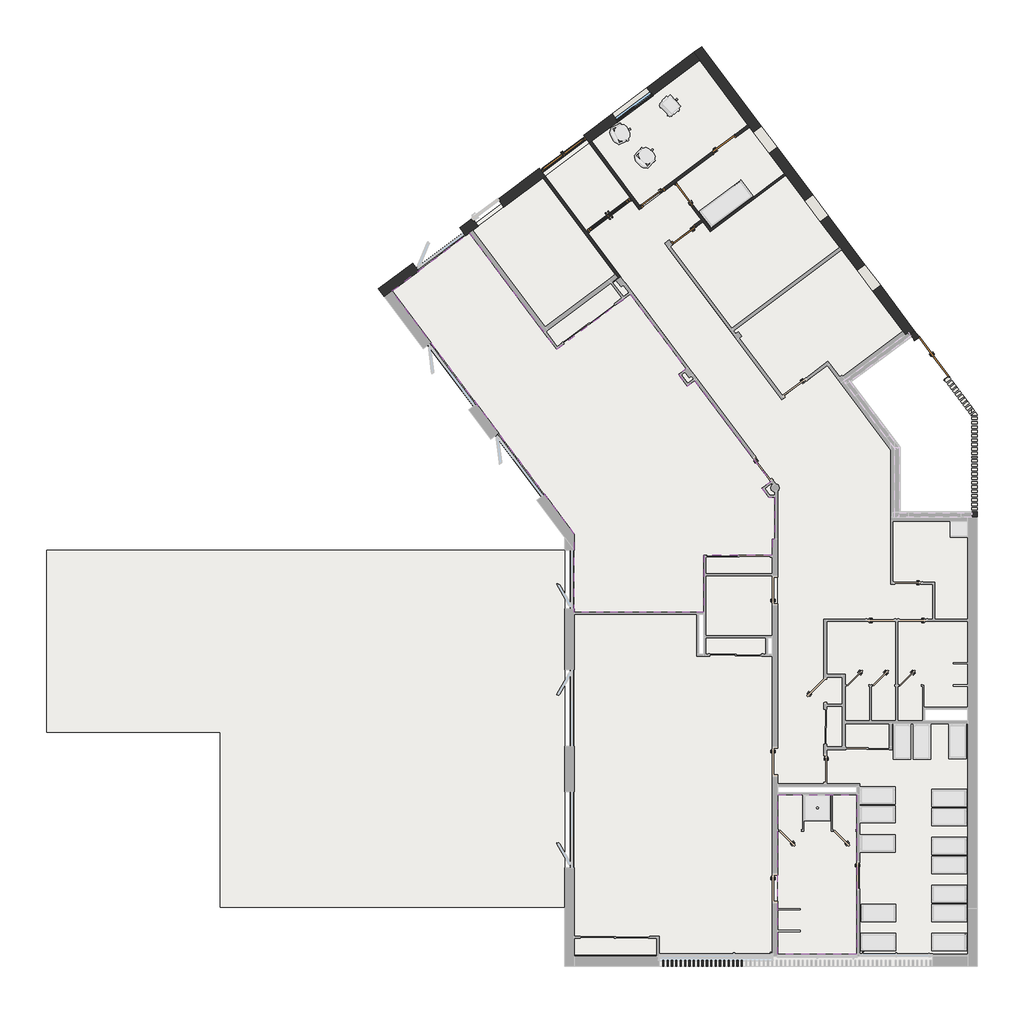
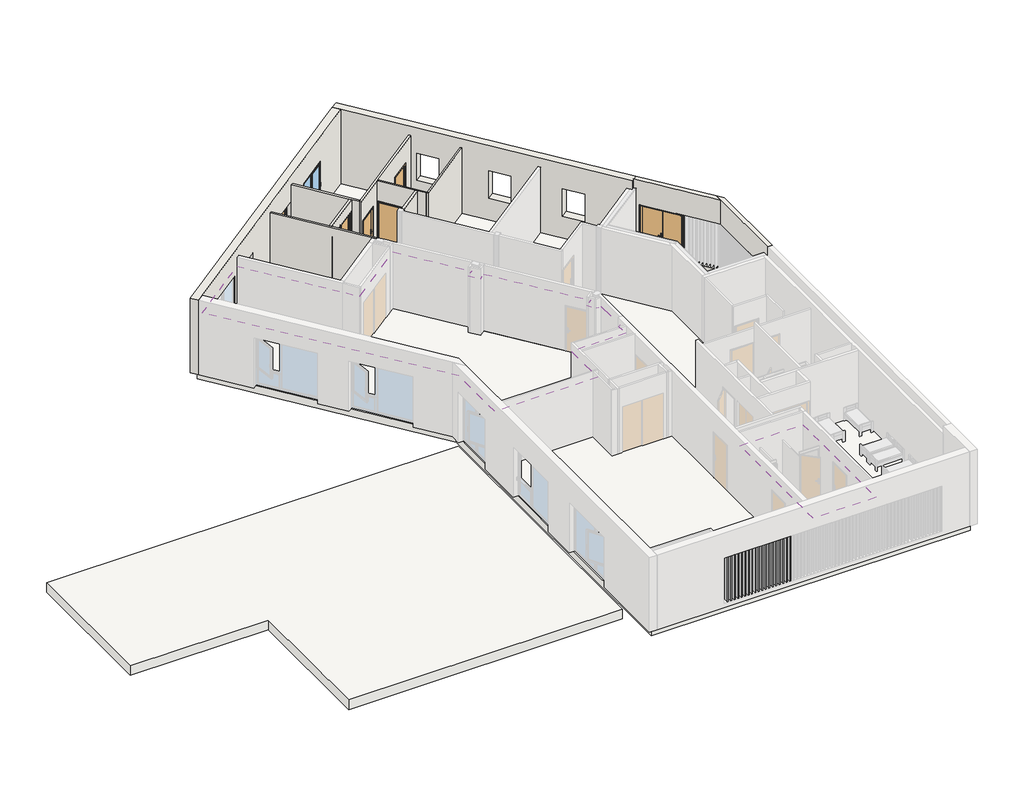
# One storey, part 3 of 4: 19 columns, 11 walls, 7 doors, 5 slabs, 2 coverings, 1 window.
"""IFC4 building model written with IfcOpenShell, lengths in millimetres."""

from ifc_helpers import new_model, si_unit, point, frame, frame_2d, origin, place, context, project, spatial, polyline, circle_curve, trimmed, segment, composite_curve, outline, extrude, faceted_brep, transform, mapped, element, save
from components import column_40mm_x_200mm_4dcdedf7, door_1_89_x_2_25_47e92b67, door_1_89_x_2_25_20da6bba, hm_double_1_70_x_2_25_cb3fb9cd, int_simple_pp_0_93m_x_2_04m_b2d4c190, int_simple_pp_0_93m_x_2_04m_4f2bf630, int_simple_pp_0_93m_x_2_04m_68d1b237, kawneer_double_door_k190_rpt_kawneer_double_door_k180_rpt_f8135a16, kawneer_double_door_k190_rpt_kawneer_double_door_k180_rpt_7c3ea43a, window_1_50_x_1_25_927f365b

model = new_model("IFC4")

# Units and contexts
model_context = context("Model", 3, world=origin())
ifc_project = project(units=[si_unit("LENGTHUNIT", "METRE", prefix="MILLI")], contexts=[model_context])

# Site, building, storey
site = spatial("IfcSite", under=ifc_project)
building = spatial("IfcBuilding", under=site)
storey = spatial("IfcBuildingStorey", under=building, Name="1 Cdl 1er 3.95", Elevation=3950.0)

# Columns
placement = place(None, origin())
column_40mm_x_200mm_shape = column_40mm_x_200mm_4dcdedf7(model_context)
element("IfcColumn", 1, ObjectType="Poteau - Lamellé-collé - Pin du sud : 40mm x 200mm", at=placement, inside=storey, context=model_context, shape_type="MappedRepresentation", body=[
    mapped(column_40mm_x_200mm_shape, transform((-8669.5111839, -16048.5662223, 0.0), x_axis=(1.0, 0.0, 0.0), y_axis=(0.0, 1.0, 0.0), z_axis=(0.0, 0.0, 1.0))),
])
element("IfcColumn", 2, ObjectType="Poteau - Lamellé-collé - Pin du sud : 40mm x 200mm", at=placement, inside=storey, context=model_context, shape_type="MappedRepresentation", body=[
    mapped(column_40mm_x_200mm_shape, transform((-8519.5111839, -16048.5662223, 0.0), x_axis=(1.0, 0.0, 0.0), y_axis=(0.0, 1.0, 0.0), z_axis=(0.0, 0.0, 1.0))),
])
element("IfcColumn", 3, ObjectType="Poteau - Lamellé-collé - Pin du sud : 40mm x 200mm", at=placement, inside=storey, context=model_context, shape_type="MappedRepresentation", body=[
    mapped(column_40mm_x_200mm_shape, transform((-8369.5111839, -16048.5662223, 0.0), x_axis=(1.0, 0.0, 0.0), y_axis=(0.0, 1.0, 0.0), z_axis=(0.0, 0.0, 1.0))),
])
element("IfcColumn", 4, ObjectType="Poteau - Lamellé-collé - Pin du sud : 40mm x 200mm", at=placement, inside=storey, context=model_context, shape_type="MappedRepresentation", body=[
    mapped(column_40mm_x_200mm_shape, transform((-8219.5111839, -16048.5662223, 0.0), x_axis=(1.0, 0.0, 0.0), y_axis=(0.0, 1.0, 0.0), z_axis=(0.0, 0.0, 1.0))),
])
element("IfcColumn", 5, ObjectType="Poteau - Lamellé-collé - Pin du sud : 40mm x 200mm", at=placement, inside=storey, context=model_context, shape_type="MappedRepresentation", body=[
    mapped(column_40mm_x_200mm_shape, transform((-8069.5111839, -16048.5662223, 0.0), x_axis=(1.0, 0.0, 0.0), y_axis=(0.0, 1.0, 0.0), z_axis=(0.0, 0.0, 1.0))),
])
element("IfcColumn", 6, ObjectType="Poteau - Lamellé-collé - Pin du sud : 40mm x 200mm", at=placement, inside=storey, context=model_context, shape_type="MappedRepresentation", body=[
    mapped(column_40mm_x_200mm_shape, transform((-7919.5111839, -16048.5662223, 0.0), x_axis=(1.0, 0.0, 0.0), y_axis=(0.0, 1.0, 0.0), z_axis=(0.0, 0.0, 1.0))),
])
element("IfcColumn", 7, ObjectType="Poteau - Lamellé-collé - Pin du sud : 40mm x 200mm", at=placement, inside=storey, context=model_context, shape_type="MappedRepresentation", body=[
    mapped(column_40mm_x_200mm_shape, transform((-7769.5111839, -16048.5662223, 0.0), x_axis=(1.0, 0.0, 0.0), y_axis=(0.0, 1.0, 0.0), z_axis=(0.0, 0.0, 1.0))),
])
element("IfcColumn", 8, ObjectType="Poteau - Lamellé-collé - Pin du sud : 40mm x 200mm", at=placement, inside=storey, context=model_context, shape_type="MappedRepresentation", body=[
    mapped(column_40mm_x_200mm_shape, transform((-7619.5111839, -16048.5662223, 0.0), x_axis=(1.0, 0.0, 0.0), y_axis=(0.0, 1.0, 0.0), z_axis=(0.0, 0.0, 1.0))),
])
element("IfcColumn", 9, ObjectType="Poteau - Lamellé-collé - Pin du sud : 40mm x 200mm", at=placement, inside=storey, context=model_context, shape_type="MappedRepresentation", body=[
    mapped(column_40mm_x_200mm_shape, transform((-7469.5111839, -16048.5662223, 0.0), x_axis=(1.0, 0.0, 0.0), y_axis=(0.0, 1.0, 0.0), z_axis=(0.0, 0.0, 1.0))),
])
element("IfcColumn", 10, ObjectType="Poteau - Lamellé-collé - Pin du sud : 40mm x 200mm", at=placement, inside=storey, context=model_context, shape_type="MappedRepresentation", body=[
    mapped(column_40mm_x_200mm_shape, transform((-7319.5111839, -16048.5662223, 0.0), x_axis=(1.0, 0.0, 0.0), y_axis=(0.0, 1.0, 0.0), z_axis=(0.0, 0.0, 1.0))),
])
element("IfcColumn", 11, ObjectType="Poteau - Lamellé-collé - Pin du sud : 40mm x 200mm", at=placement, inside=storey, context=model_context, shape_type="MappedRepresentation", body=[
    mapped(column_40mm_x_200mm_shape, transform((-7169.5111839, -16048.5662223, 0.0), x_axis=(1.0, 0.0, 0.0), y_axis=(0.0, 1.0, 0.0), z_axis=(0.0, 0.0, 1.0))),
])
element("IfcColumn", 12, ObjectType="Poteau - Lamellé-collé - Pin du sud : 40mm x 200mm", at=placement, inside=storey, context=model_context, shape_type="MappedRepresentation", body=[
    mapped(column_40mm_x_200mm_shape, transform((-7019.5111839, -16048.5662223, 0.0), x_axis=(1.0, 0.0, 0.0), y_axis=(0.0, 1.0, 0.0), z_axis=(0.0, 0.0, 1.0))),
])
element("IfcColumn", 13, ObjectType="Poteau - Lamellé-collé - Pin du sud : 40mm x 200mm", at=placement, inside=storey, context=model_context, shape_type="MappedRepresentation", body=[
    mapped(column_40mm_x_200mm_shape, transform((-6869.5111839, -16048.5662223, 0.0), x_axis=(1.0, 0.0, 0.0), y_axis=(0.0, 1.0, 0.0), z_axis=(0.0, 0.0, 1.0))),
])
element("IfcColumn", 14, ObjectType="Poteau - Lamellé-collé - Pin du sud : 40mm x 200mm", at=placement, inside=storey, context=model_context, shape_type="MappedRepresentation", body=[
    mapped(column_40mm_x_200mm_shape, transform((-6719.5111839, -16048.5662223, 0.0), x_axis=(1.0, 0.0, 0.0), y_axis=(0.0, 1.0, 0.0), z_axis=(0.0, 0.0, 1.0))),
])
element("IfcColumn", 15, ObjectType="Poteau - Lamellé-collé - Pin du sud : 40mm x 200mm", at=placement, inside=storey, context=model_context, shape_type="MappedRepresentation", body=[
    mapped(column_40mm_x_200mm_shape, transform((-6569.5111839, -16048.5662223, 0.0), x_axis=(1.0, 0.0, 0.0), y_axis=(0.0, 1.0, 0.0), z_axis=(0.0, 0.0, 1.0))),
])
element("IfcColumn", 16, ObjectType="Poteau - Lamellé-collé - Pin du sud : 40mm x 200mm", at=placement, inside=storey, context=model_context, shape_type="MappedRepresentation", body=[
    mapped(column_40mm_x_200mm_shape, transform((-6419.5111839, -16048.5662223, 0.0), x_axis=(1.0, 0.0, 0.0), y_axis=(0.0, 1.0, 0.0), z_axis=(0.0, 0.0, 1.0))),
])
element("IfcColumn", 17, ObjectType="Poteau - Lamellé-collé - Pin du sud : 40mm x 200mm", at=placement, inside=storey, context=model_context, shape_type="MappedRepresentation", body=[
    mapped(column_40mm_x_200mm_shape, transform((-6269.5111839, -16048.5662223, 0.0), x_axis=(1.0, 0.0, 0.0), y_axis=(0.0, 1.0, 0.0), z_axis=(0.0, 0.0, 1.0))),
])
element("IfcColumn", 18, ObjectType="Poteau - Lamellé-collé - Pin du sud : 40mm x 200mm", at=placement, inside=storey, context=model_context, shape_type="MappedRepresentation", body=[
    mapped(column_40mm_x_200mm_shape, transform((-6119.5111839, -16048.5662223, 0.0), x_axis=(1.0, 0.0, 0.0), y_axis=(0.0, 1.0, 0.0), z_axis=(0.0, 0.0, 1.0))),
])
element("IfcColumn", 19, ObjectType="Poteau - Lamellé-collé - Pin du sud : 40mm x 200mm", at=placement, inside=storey, context=model_context, shape_type="MappedRepresentation", body=[
    mapped(column_40mm_x_200mm_shape, transform((-5969.5111839, -16048.5662223, 0.0), x_axis=(1.0, 0.0, 0.0), y_axis=(0.0, 1.0, 0.0), z_axis=(0.0, 0.0, 1.0))),
])

# Coverings
element("IfcCovering", 20, ObjectType="A Plafond plaque de platre ba10", at=placement, inside=storey, context=model_context, shape_type="SweptSolid", body=[
    extrude(outline(polyline([(-7520.1037368, -4042.1419324), (-7520.1037368, -5475.8771251), (-4918.5161429, -5475.8771251), (-4918.5161429, -15808.5662223), (-8817.2256318, -15808.5662223), (-8817.2256318, -15114.1784251), (-11725.9579574, -15114.1784251), (-11725.9579574, -4042.1419324), (-7520.1037368, -4042.1419324)])), frame((0.0, 0.0, 6550.0), z_axis=(0.0, 0.0, 1.0), x_axis=(1.0, 0.0, 0.0)), (0.0, 0.0, 1.0), 50.0),
    extrude(outline(polyline([(-8887.2256318, -15184.1784251), (-8887.2256318, -15808.5662223), (-11725.9579574, -15808.5662223), (-11725.9579574, -15184.1784251), (-8887.2256318, -15184.1784251)])), frame((0.0, 0.0, 6550.0), z_axis=(0.0, 0.0, 1.0), x_axis=(1.0, 0.0, 0.0)), (0.0, 0.0, 1.0), 50.0),
    extrude(outline(polyline([(-789.6870946, -8692.3504346), (-789.6870946, -7802.5539694), (1796.9234173, -7802.5539694), (1796.9234173, -15738.5662223), (-1910.7246333, -15738.5662223), (-1910.7246333, -9873.5653894), (-3050.395491, -9873.5653894), (-3050.395491, -8692.3504346), (-789.6870946, -8692.3504346)])), frame((0.0, 0.0, 6550.0), z_axis=(0.0, 0.0, 1.0), x_axis=(1.0, 0.0, 0.0)), (0.0, 0.0, 1.0), 50.0),
    extrude(outline(polyline([(-889.6870946, -7802.5539694), (-889.6870946, -8592.3504346), (-2410.395491, -8592.3504346), (-2410.395491, -7802.5539694), (-889.6870946, -7802.5539694)])), frame((0.0, 0.0, 6550.0), z_axis=(0.0, 0.0, 1.0), x_axis=(1.0, 0.0, 0.0)), (0.0, 0.0, 1.0), 50.0),
    extrude(outline(polyline([(1796.9234173, -832.3564392), (1796.9234173, -4202.3504346), (669.6045371, -4202.3504346), (669.6045371, -2931.6217903), (-773.0765827, -2931.6217903), (-773.0765827, -832.3564392), (1796.9234173, -832.3564392)])), frame((0.0, 0.0, 6550.0), z_axis=(0.0, 0.0, 1.0), x_axis=(1.0, 0.0, 0.0)), (0.0, 0.0, 1.0), 50.0),
    extrude(outline(polyline([(-7422.6369813, 15016.0916067), (-5762.8326825, 12802.2532319), (-9473.9865425, 10019.8508666), (-11133.7908413, 12233.6892414), (-7422.6369813, 15016.0916067)])), frame((0.0, 0.0, 6550.0), z_axis=(0.0, 0.0, 1.0), x_axis=(1.0, 0.0, 0.0)), (0.0, 0.0, 1.0), 50.0),
    extrude(outline(polyline([(-12813.7434906, 10974.1606955), (-10321.707641, 7650.2961899), (-12729.3502563, 5845.1890022), (-15221.3861058, 9169.0535078), (-12813.7434906, 10974.1606955)])), frame((0.0, 0.0, 6550.0), z_axis=(0.0, 0.0, 1.0), x_axis=(1.0, 0.0, 0.0)), (0.0, 0.0, 1.0), 50.0),
    extrude(outline(polyline([(-15341.401053, 9079.0734408), (-12340.6031861, 5076.6247921), (-9810.7670851, 6971.4082202), (-7889.7880194, 4406.5967924), (-8146.0386127, 4213.4981199), (-7842.6457564, 3810.882201), (-7587.1163222, 4003.437441), (-4979.9956499, 525.5468426), (-5276.0258591, 303.634607), (-5042.4507212, -7.9538764), (-4838.5161429, -7.9538764), (-4838.5161429, -1453.5126421), (-4918.5161429, -1453.5126421), (-4918.5161429, -2005.7588726), (-7272.3814374, -2005.7588726), (-7272.3814374, -3972.1419324), (-11725.9579574, -3972.1419324), (-11725.9579574, -1284.5416702), (-18000.9939952, 7085.068888), (-15341.401053, 9079.0734408)])), frame((0.0, 0.0, 6550.0), z_axis=(0.0, 0.0, 1.0), x_axis=(1.0, 0.0, 0.0)), (0.0, 0.0, 1.0), 50.0),
    extrude(outline(polyline([(-10471.7770744, 7328.2851037), (-10104.4947464, 6838.4058373), (-12327.9253121, 5171.4098845), (-12702.5742703, 5677.7794627), (-10471.7770744, 7328.2851037)])), frame((0.0, 0.0, 6550.0), z_axis=(0.0, 0.0, 1.0), x_axis=(1.0, 0.0, 0.0)), (0.0, 0.0, 1.0), 50.0),
    extrude(outline(composite_curve([segment(polyline([(-9725.5000811, 10202.4856792), (-9494.009796, 9879.8541905), (-8293.7740876, 10779.7195154), (-7363.7529942, 9539.2621992), (-8403.9670732, 8759.3715713), (-8463.9534543, 8839.3810957), (-8623.9733367, 8719.4076102), (-4594.0267683, 3344.2901614), (-3026.8392389, 4519.2741295), (-843.0710496, 1601.759072), (-843.0710496, -3001.6217903), (599.6045371, -3001.6217903), (599.6045371, -4202.3504346), (-3150.395491, -4202.3504346), (-3150.395491, -9873.5653894), (-4738.5161429, -9873.5653894), (-4738.5161429, 198.0461236)]), True, "CONTINUOUS"), segment(trimmed(circle_curve(frame_2d((-4828.223969, 318.661194)), 150.3179606), [point((-4738.5161429, 198.0461236))], [point((-4811.9498515, 468.0956022))], True, "CARTESIAN"), True, "CONTINUOUS"), segment(polyline([(-4811.9498515, 468.0956022), (-11252.1016678, 9057.9296994), (-9725.5000811, 10202.4856792)]), True, "CONTINUOUS")], self_intersect=False)), frame((0.0, 0.0, 6550.0), z_axis=(0.0, 0.0, 1.0), x_axis=(1.0, 0.0, 0.0)), (0.0, 0.0, 1.0), 50.0),
    extrude(outline(polyline([(-6174.8673042, 5619.5062599), (-6250.8893229, 5720.9039515), (-2539.7382159, 8503.3065302), (-431.701009, 5691.6174249), (-2493.7628222, 4145.6061618), (-2527.1921031, 4190.1939634), (-2607.2015101, 4130.2076211), (-3004.5875304, 4661.1147838), (-4575.0216031, 3485.6404833), (-6054.8937714, 5459.4863145), (-5974.8838302, 5519.4730573), (-6094.8573394, 5679.4929712), (-6174.8673042, 5619.5062599)])), frame((0.0, 0.0, 6550.0), z_axis=(0.0, 0.0, 1.0), x_axis=(1.0, 0.0, 0.0)), (0.0, 0.0, 1.0), 50.0),
    extrude(outline(polyline([(-2599.7249272, 8583.316495), (-6310.878266, 5800.9145205), (-8424.221722, 8619.6810734), (-7303.9969615, 9459.5596373), (-7052.052642, 9123.5178842), (-4461.1245255, 11066.0416359), (-2599.7249272, 8583.316495)])), frame((0.0, 0.0, 6550.0), z_axis=(0.0, 0.0, 1.0), x_axis=(1.0, 0.0, 0.0)), (0.0, 0.0, 1.0), 50.0),
    extrude(outline(polyline([(-5702.8459712, 12722.2432671), (-4503.1152235, 11122.0486113), (-7038.0363645, 9221.5155575), (-8237.7671122, 10821.7102133), (-5702.8459712, 12722.2432671)])), frame((0.0, 0.0, 6550.0), z_axis=(0.0, 0.0, 1.0), x_axis=(1.0, 0.0, 0.0)), (0.0, 0.0, 1.0), 50.0),
    extrude(outline(polyline([(-4918.5161429, -2075.7588726), (-4918.5161429, -2638.5655769), (-7202.3814374, -2638.5655769), (-7202.3814374, -2075.7588726), (-4918.5161429, -2075.7588726)])), frame((0.0, 0.0, 6550.0), z_axis=(0.0, 0.0, 1.0), x_axis=(1.0, 0.0, 0.0)), (0.0, 0.0, 1.0), 50.0),
    extrude(outline(polyline([(-5152.772014, -4846.0460811), (-5152.772014, -5405.8771251), (-7202.3814374, -5405.8771251), (-7202.3814374, -4846.0460811), (-5152.772014, -4846.0460811)])), frame((0.0, 0.0, 6550.0), z_axis=(0.0, 0.0, 1.0), x_axis=(1.0, 0.0, 0.0)), (0.0, 0.0, 1.0), 50.0),
])
element("IfcCovering", 21, ObjectType="A Plafond plaque de platre ba10", at=placement, inside=storey, context=model_context, shape_type="SweptSolid", body=[
    extrude(outline(polyline([(1796.9234173, -4272.3504346), (1796.9234173, -7234.3232508), (252.548896, -7234.3232508), (252.548896, -7702.5539694), (-600.3954629, -7702.5539694), (-600.3954629, -4272.3504346), (1796.9234173, -4272.3504346)])), frame((0.0, 0.0, 6350.0), z_axis=(0.0, 0.0, 1.0), x_axis=(1.0, 0.0, 0.0)), (0.0, 0.0, 1.0), 50.0),
    extrude(outline(polyline([(-3050.395491, -4272.3504346), (-670.3954629, -4272.3504346), (-670.3954629, -7702.5539694), (-2410.395491, -7702.5539694), (-2410.395491, -6104.411813), (-3050.395491, -6104.411813), (-3050.395491, -4272.3504346)])), frame((0.0, 0.0, 6350.0), z_axis=(0.0, 0.0, 1.0), x_axis=(1.0, 0.0, 0.0)), (0.0, 0.0, 1.0), 50.0),
    extrude(outline(polyline([(-4918.5161429, -2708.5655769), (-4918.5161429, -4776.0460811), (-7202.3814374, -4776.0460811), (-7202.3814374, -2708.5655769), (-4918.5161429, -2708.5655769)])), frame((0.0, 0.0, 6350.0), z_axis=(0.0, 0.0, 1.0), x_axis=(1.0, 0.0, 0.0)), (0.0, 0.0, 1.0), 50.0),
    extrude(outline(polyline([(-2010.7246333, -10246.4366169), (-2010.7246333, -15738.5662223), (-4738.5161429, -15738.5662223), (-4738.5161429, -10246.4366169), (-2010.7246333, -10246.4366169)])), frame((0.0, 0.0, 6350.0), z_axis=(0.0, 0.0, 1.0), x_axis=(1.0, 0.0, 0.0)), (0.0, 0.0, 1.0), 50.0),
])

# Doors
door_1_89_x_2_25_shape = door_1_89_x_2_25_47e92b67(model_context)
door_1_89_x_2_25_2_shape = door_1_89_x_2_25_20da6bba(model_context)
element("IfcDoor", 22, ObjectType="doorsgealans9000double-vent-door : 1.89 x 2.25", at=placement, inside=storey, context=model_context, shape_type="MappedRepresentation", body=[
    mapped(door_1_89_x_2_25_shape, transform((-12076.5042577, 11739.3723438, 3950.0), x_axis=(-0.8000996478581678, -0.5998671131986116, 0.0), y_axis=(0.5998671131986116, -0.8000996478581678, 0.0), z_axis=(0.0, 0.0, 1.0))),
    mapped(door_1_89_x_2_25_2_shape, transform((-12076.5042577, 11739.3723438, 3950.0), x_axis=(-0.8000996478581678, -0.5998671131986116, 0.0), y_axis=(0.5998671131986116, -0.8000996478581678, 0.0), z_axis=(0.0, 0.0, 1.0))),
])
hm_double_1_70_x_2_25_shape = hm_double_1_70_x_2_25_cb3fb9cd(model_context)
element("IfcDoor", 23, ObjectType="HM-Double : 1.70 x 2.25", at=placement, inside=storey, context=model_context, shape_type="MappedRepresentation", body=[
    mapped(hm_double_1_70_x_2_25_shape, transform((564.5300556, 4762.9382029, 3950.0), x_axis=(-0.5998671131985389, 0.8000996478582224, 0.0), y_axis=(-0.8000996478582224, -0.5998671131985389, 0.0), z_axis=(0.0, 0.0, 1.0))),
])
int_simple_pp_0_93m_x_2_04m_shape = int_simple_pp_0_93m_x_2_04m_b2d4c190(model_context)
element("IfcDoor", 24, ObjectType="Int. Simple : PP (0.93m x 2.04m)", at=placement, inside=storey, context=model_context, shape_type="MappedRepresentation", body=[
    mapped(int_simple_pp_0_93m_x_2_04m_shape, transform((-7977.8343856, 10416.6670334, 3950.0), x_axis=(-0.5998671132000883, 0.8000996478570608, 0.0), y_axis=(-0.8000996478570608, -0.5998671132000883, 0.0), z_axis=(0.0, 0.0, 1.0))),
])
int_simple_pp_0_93m_x_2_04m_2_shape = int_simple_pp_0_93m_x_2_04m_4f2bf630(model_context)
element("IfcDoor", 25, ObjectType="Int. Simple : PP (0.93m x 2.04m)", at=placement, inside=storey, context=model_context, shape_type="MappedRepresentation", body=[
    mapped(int_simple_pp_0_93m_x_2_04m_2_shape, transform((-9059.9453559, 10267.7820986, 3950.0), x_axis=(-0.8000996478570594, -0.59986711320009, 0.0), y_axis=(0.59986711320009, -0.8000996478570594, 0.0), z_axis=(0.0, 0.0, 1.0))),
])
int_simple_pp_0_93m_x_2_04m_3_shape = int_simple_pp_0_93m_x_2_04m_68d1b237(model_context)
element("IfcDoor", 26, ObjectType="Int. Simple : PP (0.93m x 2.04m)", at=placement, inside=storey, context=model_context, shape_type="MappedRepresentation", body=[
    mapped(int_simple_pp_0_93m_x_2_04m_3_shape, transform((-7995.0819835, 9003.4366627, 3950.0), x_axis=(-0.8000994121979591, -0.5998674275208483, 0.0), y_axis=(0.5998674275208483, -0.8000994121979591, 0.0), z_axis=(0.0, 0.0, 1.0))),
])
element("IfcDoor", 27, ObjectType="Int. Simple : PP (0.93m x 2.04m)", at=placement, inside=storey, context=model_context, shape_type="MappedRepresentation", body=[
    mapped(int_simple_pp_0_93m_x_2_04m_3_shape, transform((-6553.0948412, 12147.2694668, 3950.0), x_axis=(0.8000996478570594, 0.59986711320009, 0.0), y_axis=(-0.59986711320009, 0.8000996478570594, 0.0), z_axis=(0.0, 0.0, 1.0))),
])
kawneer_double_door_k190_rpt_kawneer_double_door_k180_rpt_shape = kawneer_double_door_k190_rpt_kawneer_double_door_k180_rpt_f8135a16(model_context)
kawneer_double_door_k190_rpt_kawneer_double_door_k180_rpt_2_shape = kawneer_double_door_k190_rpt_kawneer_double_door_k180_rpt_7c3ea43a(model_context)
element("IfcDoor", 28, ObjectType="Kawneer - Double Door - K190 RPT : Kawneer - Double Door - K180 RPT", at=placement, inside=storey, context=model_context, shape_type="MappedRepresentation", body=[
    mapped(kawneer_double_door_k190_rpt_kawneer_double_door_k180_rpt_shape, transform((-10522.1167554, 9667.7211715, 3950.0), x_axis=(0.8000996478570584, 0.5998671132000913, 0.0), y_axis=(-0.5998671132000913, 0.8000996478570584, 0.0), z_axis=(0.0, 0.0, 1.0))),
    mapped(kawneer_double_door_k190_rpt_kawneer_double_door_k180_rpt_2_shape, transform((-10522.1167554, 9667.7211715, 3950.0), x_axis=(0.8000996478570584, 0.5998671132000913, 0.0), y_axis=(-0.5998671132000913, 0.8000996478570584, 0.0), z_axis=(0.0, 0.0, 1.0))),
])

# Slabs
element("IfcSlab", 29, ObjectType="A Sol souple 1", at=placement, inside=storey, context=model_context, shape_type="SweptSolid", body=[
    extrude(outline(polyline([(-1910.7246333, -15808.5662223), (-1910.7246333, -9873.5653894), (-3050.395491, -9873.5653894), (-3050.395491, -8692.3504346), (-2410.395491, -8692.3504346), (-2410.395491, -7802.5539694), (1796.9234173, -7802.5539694), (1796.9234173, -15808.5662223), (-1910.7246333, -15808.5662223)])), frame((0.0, 0.0, 3930.0), z_axis=(0.0, 0.0, 1.0), x_axis=(1.0, 0.0, 0.0)), (0.0, 0.0, 1.0), 20.0),
    extrude(outline(polyline([(-11725.9579574, -1284.5416702), (-18000.9939952, 7085.068888), (-15341.401053, 9079.0734408), (-12759.3851365, 5635.193988), (-10419.6667776, 7389.3756095), (-10041.9602092, 6885.5925454), (-9772.8131684, 7087.1768901), (-7809.4096819, 4465.7221384), (-7969.1304725, 4346.095295), (-7927.1438446, 4290.0852684), (-8046.9372825, 4199.8144381), (-7829.2412217, 3909.4085925), (-7629.097483, 4059.4417416), (-5567.8076878, 1309.687779), (-5535.8019583, 1333.6801378), (-4977.9796168, 589.546927), (-5009.9853463, 565.5545682), (-4938.00827, 469.5373798), (-5178.0292047, 289.6112082), (-5007.4402745, 62.0461236), (-4738.5161429, 62.0461236), (-4738.5161429, -1453.5126421), (-4918.5161429, -1453.5126421), (-4918.5161429, -2708.5655769), (-7202.3814374, -2708.5655769), (-7202.3814374, -4042.1419324), (-7450.1037368, -4042.1419324), (-7450.1037368, -5405.8771251), (-7272.3814374, -5405.8771251), (-7272.3814374, -4776.0460811), (-5082.772014, -4776.0460811), (-5082.772014, -5405.8771251), (-4918.5161429, -5405.8771251), (-4918.5161429, -8640.5106113), (-4878.5161429, -8640.5106113), (-4878.5161429, -9570.5106113), (-4918.5161429, -9570.5106113), (-4918.5161429, -15748.5662223), (-11725.9579574, -15748.5662223), (-11725.9579574, -1284.5416702)])), frame((0.0, 0.0, 3930.0), z_axis=(0.0, 0.0, 1.0), x_axis=(1.0, 0.0, 0.0)), (0.0, 0.0, 1.0), 20.0),
    extrude(outline(polyline([(-9494.009796, 9879.8541905), (-11213.8008061, 12173.7025301), (-7422.6369812, 15016.0916067), (-431.701009, 5691.6174249), (-2653.7661932, 4025.6451539), (-3024.9324051, 4520.7047244), (-3753.9236291, 3974.1500287), (-3789.9156748, 4022.1559934), (-4510.0051454, 3482.2753082), (-4474.0130998, 3434.2693435), (-4594.0280098, 3344.2892307), (-8504.0011164, 8559.3868288), (-8309.1313594, 8705.4886982), (-8333.1260565, 8737.4926747), (-7601.0350943, 9286.3713709), (-7637.0272205, 9334.377443), (-7363.7529942, 9539.2621992), (-7714.9023233, 10007.6233552), (-7690.8993339, 10025.6193686), (-8230.7797358, 10745.7090517), (-8254.7827252, 10727.7130383), (-8293.7740876, 10779.7195154), (-8641.903671, 10518.7126661), (-8677.8956978, 10566.7186449), (-9397.9853809, 10026.8382431), (-9361.9933541, 9978.8322642), (-9494.009796, 9879.8541905)])), frame((0.0, 0.0, 3930.0), z_axis=(0.0, 0.0, 1.0), x_axis=(1.0, 0.0, 0.0)), (0.0, 0.0, 1.0), 20.0),
])
element("IfcSlab", 30, ObjectType="A Carrelage 2 30 x 60", at=placement, inside=storey, context=model_context, shape_type="SweptSolid", body=[
    extrude(outline(polyline([(-11213.8008061, 12173.7025301), (-9494.009796, 9879.8541905), (-8293.7740876, 10779.7195154), (-8254.7827252, 10727.7130383), (-8230.7797358, 10745.7090517), (-7690.8993339, 10025.6193686), (-7714.9023233, 10007.6233552), (-7363.7529942, 9539.2621992), (-7637.02714, 9334.3773356), (-7601.0351132, 9286.3713568), (-8321.1245653, 8746.4906861), (-8357.116611, 8794.4966509), (-8397.1215816, 8764.5032795), (-8457.1273927, 8844.538654), (-8623.9936703, 8719.4321445), (-4594.0280097, 3344.2892307), (-4474.0130998, 3434.2693435), (-4510.0051454, 3482.2753082), (-3789.9156748, 4022.1559934), (-3753.9236291, 3974.1500287), (-3024.9324051, 4520.7047244), (-843.0765827, 1610.5591177), (-843.0765827, -3001.6217903), (-708.0765827, -3001.6217903), (-708.0765827, -2971.6217903), (191.9234173, -2971.6217903), (191.9234173, -3001.6217903), (599.6045371, -3001.6217903), (599.6045371, -4202.3504346), (364.6045371, -4202.3504346), (364.6045371, -4232.3504346), (-535.3954629, -4232.3504346), (-535.3954629, -4202.3504346), (-735.3954629, -4202.3504346), (-735.3954629, -4232.3504346), (-1635.3954629, -4232.3504346), (-1635.3954629, -4202.3504346), (-3150.395491, -4202.3504346), (-3150.395491, -6104.411813), (-2410.395491, -6104.411813), (-2410.395491, -8692.3504346), (-3050.395491, -8692.3504346), (-3050.395491, -8893.5653894), (-3090.395491, -8893.5653894), (-3090.395491, -8908.5653894), (-3090.395491, -9808.5653894), (-3150.395491, -9808.5653894), (-3150.395491, -9873.5653894), (-4738.5161429, -9873.5653894), (-4738.5161429, -9555.5106113), (-4878.5161429, -9555.5106113), (-4878.5161429, -8655.5106113), (-4738.5161429, -8655.5106113), (-4738.5161429, 198.0461236), (-4811.9498515, 468.0956022), (-4938.9681571, 637.5376137), (-4986.9767514, 601.5490756), (-5526.8048237, 1321.6779893), (-5478.7962295, 1357.6665274), (-12733.6774189, 11034.1894725), (-11213.8008061, 12173.7025301)])), frame((0.0, 0.0, 3930.0), z_axis=(0.0, 0.0, 1.0), x_axis=(1.0, 0.0, 0.0)), (0.0, 0.0, 1.0), 20.0),
])
element("IfcSlab", 31, ObjectType="A Carrelage1 20 x 20", at=placement, inside=storey, context=model_context, shape_type="SweptSolid", body=[
    extrude(outline(polyline([(-1635.3954629, -4202.3504346), (-1635.3954629, -4232.3504346), (-735.3954629, -4232.3504346), (-735.3954629, -4202.3504346), (-535.3954629, -4202.3504346), (-535.3954629, -4232.3504346), (364.6045371, -4232.3504346), (364.6045371, -4202.3504346), (599.6045371, -4202.3504346), (599.6045371, -3001.6217903), (191.9234173, -3001.6217903), (191.9234173, -2971.6217903), (-708.0765827, -2971.6217903), (-708.0765827, -3001.6217903), (-843.0765827, -3001.6217903), (-843.0765827, -832.2304389), (1796.9234173, -832.2304389), (1796.9234173, -7304.3232508), (322.548896, -7304.3232508), (322.548896, -7702.5539694), (-2410.395491, -7702.5539694), (-2410.395491, -6104.411813), (-3150.395491, -6104.411813), (-3150.395491, -4202.3504346), (-1635.3954629, -4202.3504346)])), frame((0.0, 0.0, 3930.0), z_axis=(0.0, 0.0, 1.0), x_axis=(1.0, 0.0, 0.0)), (0.0, 0.0, 1.0), 20.0),
    extrude(outline(polyline([(-1910.7246333, -10176.4366169), (-1910.7246333, -15808.5662223), (-4738.5161429, -15808.5662223), (-4738.5161429, -10176.4366169), (-1910.7246333, -10176.4366169)])), frame((0.0, 0.0, 3930.0), z_axis=(0.0, 0.0, 1.0), x_axis=(1.0, 0.0, 0.0)), (0.0, 0.0, 1.0), 20.0),
    extrude(outline(polyline([(-12733.6774189, 11034.1894725), (-10139.2521543, 7573.7584955), (-12638.7990754, 5724.4123062), (-15221.3861058, 9169.0535078), (-12733.6774189, 11034.1894725)])), frame((0.0, 0.0, 3930.0), z_axis=(0.0, 0.0, 1.0), x_axis=(1.0, 0.0, 0.0)), (0.0, 0.0, 1.0), 20.0),
    extrude(outline(polyline([(-4918.5161429, -2708.5655769), (-4918.5161429, -4776.0460811), (-7202.3814374, -4776.0460811), (-7202.3814374, -2708.5655769), (-4918.5161429, -2708.5655769)])), frame((0.0, 0.0, 3930.0), z_axis=(0.0, 0.0, 1.0), x_axis=(1.0, 0.0, 0.0)), (0.0, 0.0, 1.0), 20.0),
])
element("IfcSlab", 32, ObjectType="A gravier 4 + étanchéité 2 + isolant 18 + dalle ba 20", at=placement, inside=storey, context=model_context, shape_type="SweptSolid", body=[
    extrude(outline(polyline([(-29887.0149756, -8098.7637486), (-29887.0149756, -1832.7637486), (-12065.9579574, -1832.7637486), (-12065.9579574, -14118.5662223), (-23908.2803137, -14118.5662223), (-23908.2803137, -8098.7637486), (-29887.0149756, -8098.7637486)])), frame((0.0, 0.0, 3330.0), z_axis=(0.0, 0.0, 1.0), x_axis=(1.0, 0.0, 0.0)), (0.0, 0.0, 1.0), 440.0),
])
element("IfcSlab", 33, ObjectType="A  chape 6 + isolant 12 + dalle ba 20", at=placement, inside=storey, context=model_context, shape_type="SweptSolid", body=[
    extrude(outline(polyline([(1936.9234173, -832.2304389), (1936.9234173, -15948.5662223), (-11865.9579574, -15948.5662223), (-11865.9579574, -1331.1954185), (-18196.9893417, 7113.1014429), (-7394.6044264, 15212.0869532), (-353.116292, 5820.1865593), (-2687.1952496, 4070.2330253), (-843.0765827, 1610.5591177), (-843.0765827, -832.2304389), (1936.9234173, -832.2304389)]), holes=[polyline([(1796.9234173, -7304.3232508), (322.548896, -7304.3232508), (322.548896, -7702.5539694), (1796.9234173, -7702.5539694), (1796.9234173, -7304.3232508)]), polyline([(-7272.3814374, -4042.1419324), (-7450.1037368, -4042.1419324), (-7450.1037368, -5405.8771251), (-7272.3814374, -5405.8771251), (-7272.3814374, -4042.1419324)]), polyline([(-4918.5161429, -4846.0460811), (-5082.772014, -4846.0460811), (-5082.772014, -5405.8771251), (-4918.5161429, -5405.8771251), (-4918.5161429, -4846.0460811)]), polyline([(-2010.7246333, -9973.5653894), (-4738.5161429, -9973.5653894), (-4738.5161429, -10176.4366169), (-2010.7246333, -10176.4366169), (-2010.7246333, -9973.5653894)])]), frame((0.0, 0.0, 3600.0), z_axis=(0.0, 0.0, 1.0), x_axis=(1.0, 0.0, 0.0)), (0.0, 0.0, 1.0), 330.0),
])

# Walls
element("IfcWall", 34, ObjectType="A Béton 20", at=placement, inside=storey, context=model_context, shape_type="Brep", body=[
    faceted_brep([(2136.9234173, -692.3564392, 3950.0), (2136.9234173, 2832.3916709, 3950.0), (2136.9234173, 2832.3916709, 4150.0), (2136.9234173, -506.2304389, 4150.0), (2136.9234173, -506.2304389, 6250.0), (2136.9234173, 2832.3916709, 6250.0), (2136.9234173, 2832.3916709, 7350.0), (2136.9234173, -762.3564392, 7350.0), (2136.9234173, -762.3564392, 6950.0), (2136.9234173, -692.3564392, 6950.0), (1936.9234173, -692.3564392, 3950.0), (1936.9234173, -692.3564392, 3990.0), (1936.9234173, -692.3564392, 6910.0), (1936.9234173, -692.3564392, 6950.0), (1936.9234173, -762.3564392, 6950.0), (1936.9234173, -762.3564392, 7350.0), (1936.9234173, 2765.7434591, 7350.0), (1936.9234173, 3099.1506348, 7350.0), (1936.9234173, 3099.1506348, 6250.0), (1936.9234173, 2765.7434591, 6250.0), (1936.9234173, -506.2304389, 6250.0), (1936.9234173, -506.2304389, 4150.0), (1936.9234173, 2765.7434591, 4150.0), (1936.9234173, 3099.1506348, 4150.0), (1936.9234173, 3099.1506348, 3950.0), (1936.9234173, 2765.7434591, 3950.0)], [[[0, 1, 2, 3, 4, 5, 6, 7, 8, 9]], [[10, 11, 12, 13, 14, 15, 16, 17, 18, 19, 20, 21, 22, 23, 24, 25]], [[2, 1, 24, 23]], [[1, 0, 10, 25, 24]], [[7, 6, 17, 16, 15]], [[3, 2, 23, 22, 21]], [[5, 4, 20, 19, 18]], [[6, 5, 18, 17]], [[8, 7, 15, 14]], [[8, 14, 13, 9]], [[4, 3, 21, 20]], [[0, 9, 13, 12, 11, 10]]]),
])
element("IfcWall", 35, ObjectType="A Béton 20", at=placement, inside=storey, context=model_context, shape_type="Brep", body=[
    faceted_brep([(1936.9234173, 3099.1506348, 4150.0), (1936.9234173, 3099.1506348, 3950.0), (1155.3268672, 4141.6400641, 3950.0), (1155.3268672, 4141.6400641, 4150.0), (1936.9234173, 2765.7434591, 3950.0), (1936.9234173, 2765.7434591, 4150.0), (995.3069377, 4021.6666414, 4150.0), (995.3069377, 4021.6666414, 3950.0)], [[[0, 1, 2, 3]], [[4, 5, 6, 7]], [[1, 0, 5, 4]], [[1, 4, 7, 2]], [[5, 0, 3, 6]], [[3, 2, 7, 6]]]),
    faceted_brep([(-30.85634, 5723.7650807, 3950.0), (-30.85634, 5723.7650807, 7350.0), (1936.9234173, 3099.1506348, 7350.0), (1936.9234173, 3099.1506348, 6250.0), (1015.5773622, 4328.0372298, 6250.0), (1015.5773622, 4328.0372298, 6201.5), (133.7531735, 5504.2097644, 6201.5), (133.7531735, 5504.2097644, 3950.0), (-190.8762696, 5603.791658, 7350.0), (-190.8762696, 5603.791658, 3950.0), (-26.2667561, 5384.2363417, 3950.0), (-26.2667561, 5384.2363417, 6201.5), (855.5574327, 4208.0638072, 6201.5), (855.5574327, 4208.0638072, 6250.0), (1936.9234173, 2765.7434591, 6250.0), (1936.9234173, 2765.7434591, 7350.0)], [[[0, 1, 2, 3, 4, 5, 6, 7]], [[8, 9, 10, 11, 12, 13, 14, 15]], [[9, 0, 7, 10]], [[1, 0, 9, 8]], [[2, 1, 8, 15]], [[4, 3, 14, 13]], [[4, 13, 12, 5]], [[3, 2, 15, 14]], [[6, 11, 10, 7]], [[11, 6, 5, 12]]]),
])
element("IfcWall", 36, ObjectType="A Béton 20 + vide 1 +  Doublage 14", at=placement, inside=storey, context=model_context, shape_type="Brep", body=[
    faceted_brep([(-30.8896037, 5723.8094476, 3950.0), (-7354.5579195, 15492.0803054, 3950.0), (-7354.5579195, 15492.0803054, 7350.0), (-30.8896037, 5723.8094476, 7350.0), (-1732.310691, 7993.1560792, 4950.0), (-1192.4302891, 7273.0663962, 4950.0), (-1192.4302891, 7273.0663962, 6200.0), (-1732.310691, 7993.1560792, 6200.0), (-3533.4044084, 10395.4455486, 4950.0), (-2993.5240065, 9675.3558655, 4950.0), (-2993.5240065, 9675.3558655, 6200.0), (-3533.4044084, 10395.4455486, 6200.0), (-5297.0137212, 12747.7385133, 6200.0), (-5297.0137212, 12747.7385133, 4950.0), (-4757.1333193, 12027.6488302, 4950.0), (-4757.1333193, 12027.6488302, 6200.0), (-7626.5917997, 15288.1254869, 3950.0), (-7422.6369812, 15016.0916067, 3950.0), (-4503.1152235, 11122.0486113, 3950.0), (-4461.1245255, 11066.0416359, 3950.0), (-431.701009, 5691.6174249, 3950.0), (-347.7196132, 5579.6034742, 3950.0), (-302.923484, 5519.8546291, 3950.0), (-302.923484, 5519.8546291, 7350.0), (-7422.6369812, 15016.0916067, 7350.0), (-7626.5917997, 15288.1254869, 7350.0), (-2004.3445712, 7789.2012607, 4950.0), (-2004.3445712, 7789.2012607, 6200.0), (-1464.4641694, 7069.1115777, 6200.0), (-1464.4641694, 7069.1115777, 4950.0), (-3805.4382887, 10191.4907301, 4950.0), (-3805.4382887, 10191.4907301, 6200.0), (-3265.5578868, 9471.401047, 6200.0), (-3265.5578868, 9471.401047, 4950.0), (-5569.0476015, 12543.7836948, 4950.0), (-5569.0476015, 12543.7836948, 6200.0), (-5029.1671996, 11823.6940117, 6200.0), (-5029.1671996, 11823.6940117, 4950.0)], [[[0, 1, 2, 3], [4, 5, 6, 7], [8, 9, 10, 11], [12, 13, 14, 15]], [[16, 17, 18, 19, 20, 21, 22, 23, 24, 25], [26, 27, 28, 29], [30, 31, 32, 33], [34, 35, 36, 37]], [[1, 0, 22, 21, 20, 19, 18, 17, 16]], [[3, 2, 25, 24, 23]], [[0, 3, 23, 22]], [[2, 1, 16, 25]], [[27, 26, 4, 7]], [[28, 27, 7, 6]], [[29, 28, 6, 5]], [[26, 29, 5, 4]], [[31, 30, 8, 11]], [[32, 31, 11, 10]], [[33, 32, 10, 9]], [[30, 33, 9, 8]], [[34, 13, 12, 35]], [[35, 12, 15, 36]], [[36, 15, 14, 37]], [[13, 34, 37, 14]]]),
])
element("IfcWall", 37, ObjectType="A Béton 20 + vide 1 +  Doublage 14", at=placement, inside=storey, context=model_context, shape_type="Brep", body=[
    faceted_brep([(-18476.982694, 7153.1479498, 7350.0), (-7626.5917997, 15288.1254869, 7350.0), (-7626.5917997, 15288.1254869, 3950.0), (-11414.3865032, 12448.2623771, 3950.0), (-11414.3865032, 12448.2623771, 6210.0), (-12942.5768306, 11302.5161909, 6210.0), (-12942.5768306, 11302.5161909, 3950.0), (-14331.5498193, 10261.1468823, 3950.0), (-14331.5498193, 10261.1468823, 6234.0), (-15264.4660087, 9561.7018284, 6234.0), (-15264.4660087, 9561.7018284, 3950.0), (-15678.0161435, 9251.6465419, 3950.0), (-15678.0161435, 9251.6465419, 6250.0), (-17294.2174322, 8039.9149732, 6250.0), (-17294.2174322, 8039.9149732, 3950.0), (-18476.982694, 7153.1479498, 3950.0), (-9234.1041494, 14082.9083678, 6200.0), (-10434.2536211, 13183.107698, 6200.0), (-10434.2536211, 13183.107698, 4950.0), (-9234.1041494, 14082.9083678, 4950.0), (-7422.6369812, 15016.0916067, 7350.0), (-18000.9939952, 7085.068888, 7350.0), (-18273.0278755, 6881.1140695, 7350.0), (-18273.0278755, 6881.1140695, 3950.0), (-18000.9939952, 7085.068888, 3950.0), (-17090.2626137, 7767.881093, 3950.0), (-17090.2626137, 7767.881093, 6250.0), (-15474.061325, 8979.6126616, 6250.0), (-15474.061325, 8979.6126616, 3950.0), (-15033.3078022, 9310.0634299, 3950.0), (-15033.3078022, 9310.0634299, 6200.0), (-14154.7983889, 9968.7175202, 6200.0), (-14154.7983889, 9968.7175202, 3950.0), (-12738.6220122, 11030.4823106, 3950.0), (-12738.6220122, 11030.4823106, 6210.0), (-11210.4316848, 12176.2284968, 6210.0), (-11210.4316848, 12176.2284968, 3950.0), (-7422.6369812, 15016.0916067, 3950.0), (-9006.1463414, 13828.8705009, 4950.0), (-10254.3017921, 12893.0778044, 4950.0), (-10254.3017921, 12893.0778044, 6230.0), (-9006.1463414, 13828.8705009, 6230.0), (-15207.478633, 9485.6923618, 3950.0), (-15180.275245, 9506.0878437, 3950.0), (-14274.5624436, 10185.1374158, 3950.0), (-14301.7658316, 10164.7419339, 3950.0), (-14274.5624436, 10185.1374158, 6234.0), (-15207.478633, 9485.6923618, 6234.0), (-15180.275245, 9506.0878437, 6200.0), (-14301.7658316, 10164.7419339, 6200.0), (-9102.1333845, 13906.8864453, 6200.0), (-10302.2828562, 13007.0857755, 6200.0), (-9078.130395, 13924.8824587, 4950.0), (-9102.1333845, 13906.8864453, 4950.0), (-10302.2828562, 13007.0857755, 4950.0), (-10326.2858457, 12989.0897621, 4950.0), (-10326.2858457, 12989.0897621, 6230.0), (-9078.130395, 13924.8824587, 6230.0)], [[[0, 1, 2, 3, 4, 5, 6, 7, 8, 9, 10, 11, 12, 13, 14, 15], [16, 17, 18, 19]], [[20, 21, 22, 23, 24, 25, 26, 27, 28, 29, 30, 31, 32, 33, 34, 35, 36, 37], [38, 39, 40, 41]], [[2, 37, 36, 3]], [[23, 15, 14, 25, 24]], [[28, 11, 10, 42, 43, 29]], [[44, 7, 6, 33, 32, 45]], [[1, 0, 22, 21, 20]], [[2, 1, 20, 37]], [[0, 15, 23, 22]], [[13, 26, 25, 14]], [[26, 13, 12, 27]], [[27, 12, 11, 28]], [[8, 46, 47, 9]], [[9, 47, 42, 10]], [[46, 8, 7, 44]], [[30, 48, 49, 31]], [[31, 49, 45, 32]], [[48, 30, 29, 43]], [[47, 46, 44, 45, 49, 48, 43, 42]], [[5, 34, 33, 6]], [[34, 5, 4, 35]], [[35, 4, 3, 36]], [[17, 16, 50, 51]], [[38, 52, 53, 19, 18, 54, 55, 39]], [[18, 17, 51, 54]], [[16, 19, 53, 50]], [[39, 55, 56, 40]], [[55, 54, 51, 50, 53, 52, 57, 56]], [[40, 56, 57, 41]], [[57, 52, 38, 41]]]),
])
element("IfcWall", 38, ObjectType="A cloison placostil 98 sèche", at=placement, inside=storey, context=model_context, shape_type="Brep", body=[
    faceted_brep([(-7303.7662828, 9459.2522344, 6950.0), (-8337.1348388, 8684.4933383, 6950.0), (-8337.1348388, 8684.4933383, 6025.0), (-7537.0354266, 9284.3607658, 6025.0), (-7537.0354266, 9284.3607658, 3950.0), (-7303.7662828, 9459.2522344, 3950.0), (-8397.1215816, 8764.5032795, 6950.0), (-7363.7529942, 9539.2621992, 6950.0), (-7363.7529942, 9539.2621992, 3950.0), (-7597.0221694, 9364.370707, 3950.0), (-7597.0221694, 9364.370707, 6025.0), (-8397.1215816, 8764.5032795, 6025.0)], [[[0, 1, 2, 3, 4, 5]], [[6, 7, 8, 9, 10, 11]], [[8, 5, 4, 9]], [[1, 0, 7, 6]], [[1, 6, 11, 2]], [[0, 5, 8, 7]], [[10, 3, 2, 11]], [[3, 10, 9, 4]]]),
])
element("IfcWall", 39, ObjectType="A cloison placostil 72 sèche", at=placement, inside=storey, context=model_context, shape_type="Brep", body=[
    faceted_brep([(-4503.1152235, 11122.0486113, 3950.0), (-7038.0363645, 9221.5155575, 3950.0), (-7094.0433399, 9179.5248596, 3950.0), (-7094.0433399, 9179.5248596, 6950.0), (-7038.0363645, 9221.5155575, 6950.0), (-4503.1152235, 11122.0486113, 6950.0), (-4461.1245255, 11066.0416359, 3950.0), (-4461.1245255, 11066.0416359, 6950.0), (-7052.052642, 9123.5178842, 6950.0), (-7052.052642, 9123.5178842, 3950.0)], [[[0, 1, 2, 3, 4, 5]], [[6, 7, 8, 9]], [[2, 1, 0, 6, 9]], [[5, 4, 3, 8, 7]], [[0, 5, 7, 6]], [[3, 2, 9, 8]]]),
])
element("IfcWall", 40, ObjectType="A cloison placostil 72 sèche", at=placement, inside=storey, context=model_context, shape_type="Brep", body=[
    faceted_brep([(-8237.7671122, 10821.7102133, 6950.0), (-7038.0363645, 9221.5155575, 6950.0), (-7038.0363645, 9221.5155575, 3950.0), (-7628.9019923, 10009.6090707, 3950.0), (-7628.9019923, 10009.6090707, 6025.0), (-8228.7691055, 10809.7087186, 6025.0), (-8228.7691055, 10809.7087186, 3950.0), (-8237.7671122, 10821.7102133, 3950.0), (-7094.0433399, 9179.5248596, 6950.0), (-7303.7662828, 9459.2522344, 6950.0), (-7363.7529942, 9539.2621992, 6950.0), (-8293.7740876, 10779.7195154, 6950.0), (-8293.7740876, 10779.7195154, 3950.0), (-8284.7760809, 10767.7180207, 3950.0), (-8284.7760809, 10767.7180207, 6025.0), (-7684.9089677, 9967.6183728, 6025.0), (-7684.9089677, 9967.6183728, 3950.0), (-7363.7529942, 9539.2621992, 3950.0), (-7303.7662828, 9459.2522344, 3950.0), (-7094.0433399, 9179.5248596, 3950.0)], [[[0, 1, 2, 3, 4, 5, 6, 7]], [[8, 9, 10, 11, 12, 13, 14, 15, 16, 17, 18, 19]], [[2, 19, 18, 17, 16, 3]], [[12, 7, 6, 13]], [[1, 0, 11, 10, 9, 8]], [[2, 1, 8, 19]], [[0, 7, 12, 11]], [[5, 14, 13, 6]], [[14, 5, 4, 15]], [[15, 4, 3, 16]]]),
])
element("IfcWall", 41, ObjectType="A cloison placostil 98 sèche", at=placement, inside=storey, context=model_context, shape_type="Brep", body=[
    faceted_brep([(-9553.9965073, 9959.8641553, 6950.0), (-9473.9865425, 10019.8508666, 6950.0), (-5762.8326825, 12802.2532319, 6950.0), (-5762.8326825, 12802.2532319, 3950.0), (-6211.0418606, 12466.2126568, 3950.0), (-6211.0418606, 12466.2126568, 6025.0), (-7011.1415085, 11866.3455436, 6025.0), (-7011.1415085, 11866.3455436, 3950.0), (-8661.8854, 10628.7159865, 3950.0), (-8661.8854, 10628.7159865, 6025.0), (-9461.9850478, 10028.8488733, 6025.0), (-9461.9850478, 10028.8488733, 3950.0), (-9473.9865425, 10019.8508666, 3950.0), (-9553.9965073, 9959.8641553, 3950.0), (-5702.8459712, 12722.2432671, 6950.0), (-8237.7671122, 10821.7102133, 6950.0), (-8293.7740876, 10779.7195154, 6950.0), (-9494.009796, 9879.8541905, 6950.0), (-9494.009796, 9879.8541905, 3950.0), (-9401.9983365, 9948.8389085, 3950.0), (-9401.9983365, 9948.8389085, 6025.0), (-8601.8986886, 10548.7060217, 6025.0), (-8601.8986886, 10548.7060217, 3950.0), (-8293.7740876, 10779.7195154, 3950.0), (-8237.7671122, 10821.7102133, 3950.0), (-6951.1547972, 11786.3355788, 3950.0), (-6951.1547972, 11786.3355788, 6025.0), (-6151.0551493, 12386.202692, 6025.0), (-6151.0551493, 12386.202692, 3950.0), (-5702.8459712, 12722.2432671, 3950.0)], [[[0, 1, 2, 3, 4, 5, 6, 7, 8, 9, 10, 11, 12, 13]], [[14, 15, 16, 17, 18, 19, 20, 21, 22, 23, 24, 25, 26, 27, 28, 29]], [[3, 29, 28, 4]], [[18, 13, 12, 11, 19]], [[22, 8, 7, 25, 24, 23]], [[2, 1, 0, 17, 16, 15, 14]], [[3, 2, 14, 29]], [[0, 13, 18, 17]], [[10, 20, 19, 11]], [[20, 10, 9, 21]], [[21, 9, 8, 22]], [[27, 5, 4, 28]], [[5, 27, 26, 6]], [[6, 26, 25, 7]]]),
])
element("IfcWall", 42, ObjectType="A cloison placostil 98 sèche", at=placement, inside=storey, context=model_context, shape_type="Brep", body=[
    faceted_brep([(-9473.9865425, 10019.8508666, 3950.0), (-11133.7908413, 12233.6892414, 3950.0), (-11133.7908413, 12233.6892414, 6950.0), (-9473.9865425, 10019.8508666, 6950.0), (-9553.9965073, 9959.8641553, 3950.0), (-9553.9965073, 9959.8641553, 6950.0), (-9732.1570399, 10197.4937507, 6950.0), (-9792.1437513, 10277.5037155, 6950.0), (-11213.8008061, 12173.7025301, 6950.0), (-11213.8008061, 12173.7025301, 3950.0), (-9792.1437513, 10277.5037155, 3950.0), (-9732.1570399, 10197.4937507, 3950.0)], [[[0, 1, 2, 3]], [[4, 5, 6, 7, 8, 9, 10, 11]], [[1, 0, 4, 11, 10, 9]], [[2, 1, 9, 8]], [[3, 2, 8, 7, 6, 5]], [[0, 3, 5, 4]]]),
])
element("IfcWall", 43, ObjectType="A cloison placostil 98 sèche", at=placement, inside=storey, context=model_context, shape_type="Brep", body=[
    faceted_brep([(-12813.7434906, 10974.1606955, 3950.0), (-10224.2994716, 7520.3736781, 3950.0), (-10224.2994716, 7520.3736781, 6950.0), (-12813.7434906, 10974.1606955, 6950.0), (-12733.7335258, 11034.1474068, 3950.0), (-12733.7335258, 11034.1474068, 6950.0), (-11312.0764709, 9137.9485923, 6950.0), (-11252.0897596, 9057.9386275, 6950.0), (-10144.2895068, 7580.3603894, 6950.0), (-10144.2895068, 7580.3603894, 3950.0), (-11252.0897596, 9057.9386275, 3950.0), (-11312.0764709, 9137.9485923, 3950.0)], [[[0, 1, 2, 3]], [[4, 5, 6, 7, 8, 9, 10, 11]], [[1, 0, 4, 11, 10, 9]], [[2, 1, 9, 8]], [[3, 2, 8, 7, 6, 5]], [[0, 3, 5, 4]]]),
])
element("IfcWall", 44, ObjectType="A cloison placostil 98 sèche", at=placement, inside=storey, context=model_context, shape_type="SweptSolid", body=[
    extrude(outline(polyline([(-1303.5775404, -3000.0), (-3203.2568163, -3000.0), (-3203.2568163, 0.0), (-3153.4171783, 0.0), (-3153.4171783, -2500.0), (-1353.4171783, -2500.0), (-1353.4171783, 0.0), (-1303.5775404, 0.0), (-1303.5775404, -3000.0)])), frame((-8689.1651089, 10979.4670467, 3950.0), z_axis=(-0.5998671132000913, 0.8000996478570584, 0.0), x_axis=(0.8000996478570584, 0.5998671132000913, 0.0)), (0.0, 0.0, 1.0), 100.0),
])

# Window
window_1_50_x_1_25_shape = window_1_50_x_1_25_927f365b(model_context)
element("IfcWindow", 45, ObjectType="windowsopening-slidepierretfenetrecoulissante2v : 1.50 x 1.25", at=placement, inside=storey, context=model_context, shape_type="MappedRepresentation", body=[
    mapped(window_1_50_x_1_25_shape, transform((-9732.201476, 13496.9910928, 3950.0), x_axis=(0.8000996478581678, 0.5998671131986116, 0.0), y_axis=(-0.5998671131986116, 0.8000996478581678, 0.0), z_axis=(0.0, 0.0, 1.0))),
])

save(model, "model.ifc")
